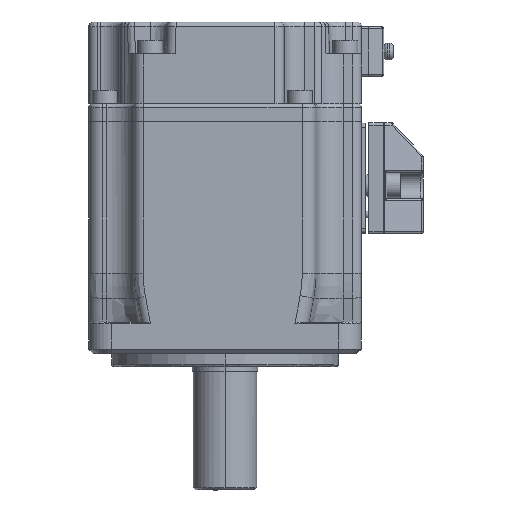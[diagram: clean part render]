
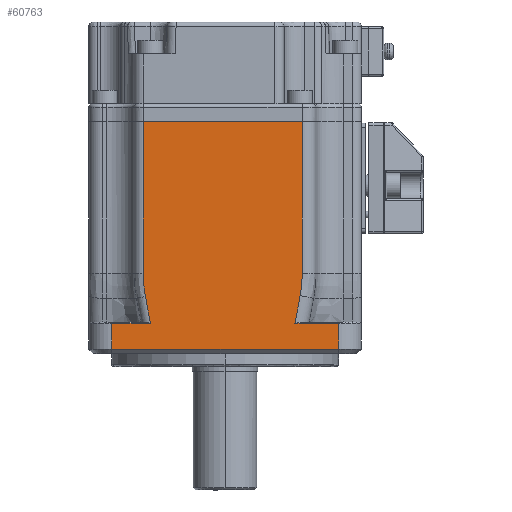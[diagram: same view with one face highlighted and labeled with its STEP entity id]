
A CAD part, left-side view. The second image highlights one B-rep face of the part: STEP entity #60763.
In plain terms, the highlighted planar face has unit normal (-1, 0, 0).
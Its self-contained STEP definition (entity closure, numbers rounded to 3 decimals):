
#819 = ORIENTED_EDGE ( 'NONE', *, *, #22196, .F. ) ;
#1320 = VERTEX_POINT ( 'NONE', #16713 ) ;
#1342 = VERTEX_POINT ( 'NONE', #16849 ) ;
#1517 = EDGE_CURVE ( 'NONE', #8379, #1342, #31078, .T. ) ;
#2358 = CARTESIAN_POINT ( 'NONE',  ( -30., -16.553, 94.112 ) ) ;
#2444 = CARTESIAN_POINT ( 'NONE',  ( -30., -16.86, 95.754 ) ) ;
#2597 = CARTESIAN_POINT ( 'NONE',  ( -30., -17.015, 97.418 ) ) ;
#3374 = CARTESIAN_POINT ( 'NONE',  ( -30., -17.015, 99.088 ) ) ;
#3663 = CARTESIAN_POINT ( 'NONE',  ( -30., -16.553, 94.112 ) ) ;
#5149 = DIRECTION ( 'NONE',  ( 0., 0., -1. ) ) ;
#5601 = DIRECTION ( 'NONE',  ( 0., -1., 0. ) ) ;
#5685 = CARTESIAN_POINT ( 'NONE',  ( -30., -17.069, 88. ) ) ;
#6690 = VECTOR ( 'NONE', #27664, 1000. ) ;
#6977 = LINE ( 'NONE', #25164, #47549 ) ;
#7033 = EDGE_LOOP ( 'NONE', ( #43987, #63485, #59745, #51702, #14614, #819, #25025, #32369, #7152, #63564, #13751, #67387 ) ) ;
#7152 = ORIENTED_EDGE ( 'NONE', *, *, #36850, .F. ) ;
#7811 = VECTOR ( 'NONE', #35041, 1000. ) ;
#8330 = CARTESIAN_POINT ( 'NONE',  ( -30., 17.535, 93.928 ) ) ;
#8379 = VERTEX_POINT ( 'NONE', #57168 ) ;
#10347 = PLANE ( 'NONE',  #49828 ) ;
#10456 = CARTESIAN_POINT ( 'NONE',  ( -30., -25., 88. ) ) ;
#11981 =( BOUNDED_CURVE ( )  B_SPLINE_CURVE ( 3, ( #8330, #40055, #13671, #50555 ),
 .UNSPECIFIED., .F., .F. ) 
 B_SPLINE_CURVE_WITH_KNOTS ( ( 4, 4 ),
 ( 0., 1. ),
 .UNSPECIFIED. ) 
 CURVE ( )  GEOMETRIC_REPRESENTATION_ITEM ( )  RATIONAL_B_SPLINE_CURVE ( ( 1., 0.997, 0.997, 1. ) ) 
 REPRESENTATION_ITEM ( '' )  );
#13671 = CARTESIAN_POINT ( 'NONE',  ( -30., 18.015, 97.356 ) ) ;
#13751 = ORIENTED_EDGE ( 'NONE', *, *, #1517, .F. ) ;
#14614 = ORIENTED_EDGE ( 'NONE', *, *, #55128, .F. ) ;
#15989 = EDGE_CURVE ( 'NONE', #24951, #66185, #62246, .T. ) ;
#16713 = CARTESIAN_POINT ( 'NONE',  ( -30., 25., 82.3 ) ) ;
#16849 = CARTESIAN_POINT ( 'NONE',  ( -30., -17.015, 99.088 ) ) ;
#17187 = CARTESIAN_POINT ( 'NONE',  ( -30., 25., 88. ) ) ;
#17560 = LINE ( 'NONE', #58936, #45599 ) ;
#17750 = EDGE_CURVE ( 'NONE', #21543, #24951, #45637, .T. ) ;
#20793 = EDGE_CURVE ( 'NONE', #1342, #49838, #56003, .T. ) ;
#20883 = VECTOR ( 'NONE', #35967, 1000. ) ;
#21112 = VERTEX_POINT ( 'NONE', #47099 ) ;
#21543 = VERTEX_POINT ( 'NONE', #17187 ) ;
#22196 = EDGE_CURVE ( 'NONE', #36511, #1320, #29452, .T. ) ;
#22368 = CARTESIAN_POINT ( 'NONE',  ( -30., -17.069, 88. ) ) ;
#22596 = LINE ( 'NONE', #22368, #6690 ) ;
#24302 = VERTEX_POINT ( 'NONE', #58085 ) ;
#24951 = VERTEX_POINT ( 'NONE', #53422 ) ;
#25025 = ORIENTED_EDGE ( 'NONE', *, *, #34562, .F. ) ;
#25164 = CARTESIAN_POINT ( 'NONE',  ( -30., 18.015, 88. ) ) ;
#27260 = VERTEX_POINT ( 'NONE', #27804 ) ;
#27664 = DIRECTION ( 'NONE',  ( 0., -1., 0. ) ) ;
#27804 = CARTESIAN_POINT ( 'NONE',  ( -30., -25., 88. ) ) ;
#29452 = LINE ( 'NONE', #56695, #43433 ) ;
#31078 = LINE ( 'NONE', #56034, #44990 ) ;
#31707 = VECTOR ( 'NONE', #5601, 1000. ) ;
#32171 = CARTESIAN_POINT ( 'NONE',  ( -30., 18.015, 99.088 ) ) ;
#32369 = ORIENTED_EDGE ( 'NONE', *, *, #48938, .F. ) ;
#33704 = CARTESIAN_POINT ( 'NONE',  ( -30., -16.553, 94.112 ) ) ;
#34562 = EDGE_CURVE ( 'NONE', #27260, #36511, #35331, .T. ) ;
#34891 = CARTESIAN_POINT ( 'NONE',  ( -30., 16.424, 88. ) ) ;
#35041 = DIRECTION ( 'NONE',  ( 0., 0.184, 0.983 ) ) ;
#35331 = LINE ( 'NONE', #10456, #61517 ) ;
#35967 = DIRECTION ( 'NONE',  ( 0., 0., 1. ) ) ;
#36511 = VERTEX_POINT ( 'NONE', #58460 ) ;
#36850 = EDGE_CURVE ( 'NONE', #49838, #24302, #51205, .T. ) ;
#36981 = DIRECTION ( 'NONE',  ( 1., 0., 0. ) ) ;
#37206 = FACE_OUTER_BOUND ( 'NONE', #7033, .T. ) ;
#37345 = VECTOR ( 'NONE', #51327, 1000. ) ;
#38485 = EDGE_CURVE ( 'NONE', #21112, #8379, #17560, .T. ) ;
#40055 = CARTESIAN_POINT ( 'NONE',  ( -30., 17.855, 95.631 ) ) ;
#40692 = EDGE_CURVE ( 'NONE', #41266, #21112, #6977, .T. ) ;
#41266 = VERTEX_POINT ( 'NONE', #32171 ) ;
#42104 = DIRECTION ( 'NONE',  ( 0., 0., -1. ) ) ;
#43433 = VECTOR ( 'NONE', #56469, 1000. ) ;
#43987 = ORIENTED_EDGE ( 'NONE', *, *, #40692, .F. ) ;
#44990 = VECTOR ( 'NONE', #56135, 1000. ) ;
#45599 = VECTOR ( 'NONE', #63988, 1000. ) ;
#45637 = LINE ( 'NONE', #5685, #31707 ) ;
#45778 = CARTESIAN_POINT ( 'NONE',  ( -30., 17.535, 93.928 ) ) ;
#47099 = CARTESIAN_POINT ( 'NONE',  ( -30., 18.015, 132.4 ) ) ;
#47549 = VECTOR ( 'NONE', #56785, 1000. ) ;
#48800 = LINE ( 'NONE', #67248, #20883 ) ;
#48938 = EDGE_CURVE ( 'NONE', #24302, #27260, #22596, .T. ) ;
#49828 = AXIS2_PLACEMENT_3D ( 'NONE', #68209, #36981, #5149 ) ;
#49838 = VERTEX_POINT ( 'NONE', #33704 ) ;
#50555 = CARTESIAN_POINT ( 'NONE',  ( -30., 18.015, 99.088 ) ) ;
#51205 = LINE ( 'NONE', #3663, #37345 ) ;
#51327 = DIRECTION ( 'NONE',  ( 0., 0.184, -0.983 ) ) ;
#51702 = ORIENTED_EDGE ( 'NONE', *, *, #17750, .F. ) ;
#53422 = CARTESIAN_POINT ( 'NONE',  ( -30., 16.424, 88. ) ) ;
#54245 = EDGE_CURVE ( 'NONE', #66185, #41266, #11981, .T. ) ;
#55128 = EDGE_CURVE ( 'NONE', #1320, #21543, #48800, .T. ) ;
#56003 =( BOUNDED_CURVE ( )  B_SPLINE_CURVE ( 3, ( #3374, #2597, #2444, #2358 ),
 .UNSPECIFIED., .F., .F. ) 
 B_SPLINE_CURVE_WITH_KNOTS ( ( 4, 4 ),
 ( 0., 1. ),
 .UNSPECIFIED. ) 
 CURVE ( )  GEOMETRIC_REPRESENTATION_ITEM ( )  RATIONAL_B_SPLINE_CURVE ( ( 1., 0.997, 0.997, 1. ) ) 
 REPRESENTATION_ITEM ( '' )  );
#56034 = CARTESIAN_POINT ( 'NONE',  ( -30., -17.015, 89.2 ) ) ;
#56135 = DIRECTION ( 'NONE',  ( 0., 0., -1. ) ) ;
#56469 = DIRECTION ( 'NONE',  ( 0., 1., 0. ) ) ;
#56695 = CARTESIAN_POINT ( 'NONE',  ( -30., -17.069, 82.3 ) ) ;
#56785 = DIRECTION ( 'NONE',  ( 0., 0., 1. ) ) ;
#57168 = CARTESIAN_POINT ( 'NONE',  ( -30., -17.015, 132.4 ) ) ;
#58085 = CARTESIAN_POINT ( 'NONE',  ( -30., -15.406, 88. ) ) ;
#58460 = CARTESIAN_POINT ( 'NONE',  ( -30., -25., 82.3 ) ) ;
#58936 = CARTESIAN_POINT ( 'NONE',  ( -30., -112.744, 132.4 ) ) ;
#59745 = ORIENTED_EDGE ( 'NONE', *, *, #15989, .F. ) ;
#60763 = ADVANCED_FACE ( 'NONE', ( #37206 ), #10347, .F. ) ;
#61517 = VECTOR ( 'NONE', #42104, 1000. ) ;
#62246 = LINE ( 'NONE', #34891, #7811 ) ;
#63485 = ORIENTED_EDGE ( 'NONE', *, *, #54245, .F. ) ;
#63564 = ORIENTED_EDGE ( 'NONE', *, *, #20793, .F. ) ;
#63988 = DIRECTION ( 'NONE',  ( 0., -1., 0. ) ) ;
#66185 = VERTEX_POINT ( 'NONE', #45778 ) ;
#67248 = CARTESIAN_POINT ( 'NONE',  ( -30., 25., 88. ) ) ;
#67387 = ORIENTED_EDGE ( 'NONE', *, *, #38485, .F. ) ;
#68209 = CARTESIAN_POINT ( 'NONE',  ( -30., -17.069, 88. ) ) ;
